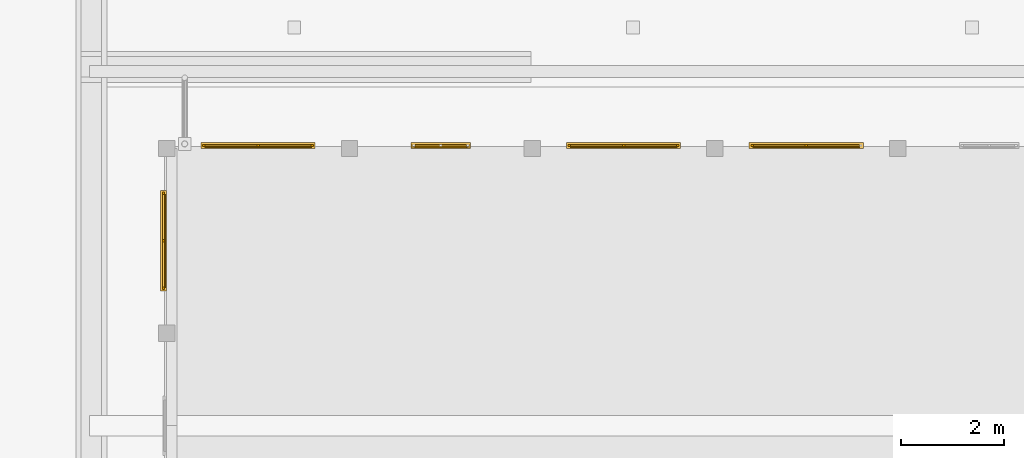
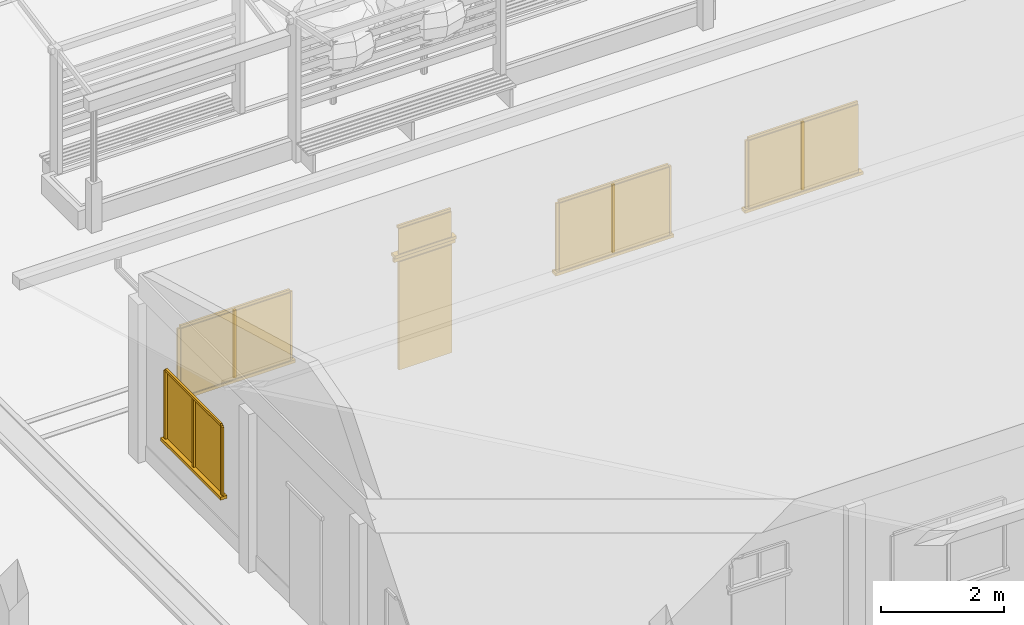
# One storey, part 63 of 177: 26 windows, 2 doors.
"""IFC4 building model written with IfcOpenShell, lengths in metres."""

from ifc_helpers import new_model, si_unit, origin, origin_with_axes, place, context, subcontext, project, spatial, triangles, element, save


model = new_model("IFC4")

# Units and contexts
model_context = context("Model", 3, precision=1e-05, world=origin_with_axes())
body_context = subcontext(model_context, "Body", "Model", "MODEL_VIEW")
ifc_project = project(units=[si_unit("LENGTHUNIT", "METRE"), si_unit("AREAUNIT", "SQUARE_METRE"), si_unit("VOLUMEUNIT", "CUBIC_METRE"), si_unit("PLANEANGLEUNIT", "RADIAN")], contexts=[model_context])

# Site, building, storey
site_placement = place(None, origin_with_axes())
site = spatial("IfcSite", under=ifc_project, at=site_placement, Name="Predio Los Mangos - Morales, San Martín", CompositionType="ELEMENT")
building_placement = place(site_placement, origin())
building = spatial("IfcBuilding", under=site, at=building_placement, Name="Hogar de Refugio Temporal", CompositionType="ELEMENT")
storey_placement = place(building_placement, origin())
storey = spatial("IfcBuildingStorey", under=building, at=storey_placement, Name="NIVEL 1 (NPT +0.00)", CompositionType="ELEMENT", Elevation=0.0)

# Windows
window_1_placement = place(storey_placement, origin())
element("IfcWindow", 1, at=window_1_placement, inside=storey, Name="E-06_v0_vid", ObjectType="Ventana", PredefinedType="WINDOW", context=body_context, shape_type="Tessellation", body=[
    triangles([(32.7476, 103.52, 1.05), (34.8124, 103.52, 1.05), (34.8124, 103.54, 1.05), (32.7476, 103.54, 1.05), (32.7476, 103.52, 2.4), (34.8124, 103.52, 2.4), (34.8124, 103.54, 2.4), (32.7476, 103.54, 2.4)], [[1, 4, 3], [1, 3, 2], [5, 6, 7], [5, 7, 8], [1, 2, 6], [1, 6, 5], [2, 3, 7], [2, 7, 6], [3, 4, 8], [3, 8, 7], [4, 1, 5], [4, 5, 8]]),
])
window_2_placement = place(storey_placement, origin())
element("IfcWindow", 2, at=window_2_placement, inside=storey, Name="E-06_v0_m", ObjectType="Ventana", PredefinedType="WINDOW", context=body_context, shape_type="Tessellation", body=[
    triangles([(32.6976, 103.54, 1.05), (32.7476, 103.54, 1.05), (32.7476, 103.58, 1.05), (32.6976, 103.58, 1.05), (32.6976, 103.54, 2.4), (32.7476, 103.54, 2.4), (32.7476, 103.58, 2.4), (32.6976, 103.58, 2.4)], [[1, 4, 3], [1, 3, 2], [5, 6, 7], [5, 7, 8], [1, 2, 6], [1, 6, 5], [2, 3, 7], [2, 7, 6], [3, 4, 8], [3, 8, 7], [4, 1, 5], [4, 5, 8]]),
])
window_3_placement = place(storey_placement, origin())
element("IfcWindow", 3, at=window_3_placement, inside=storey, Name="E-06_v0_m", ObjectType="Ventana", PredefinedType="WINDOW", context=body_context, shape_type="Tessellation", body=[
    triangles([(34.8124, 103.54, 1.05), (34.8624, 103.54, 1.05), (34.8624, 103.58, 1.05), (34.8124, 103.58, 1.05), (34.8124, 103.54, 2.4), (34.8624, 103.54, 2.4), (34.8624, 103.58, 2.4), (34.8124, 103.58, 2.4)], [[1, 4, 3], [1, 3, 2], [5, 6, 7], [5, 7, 8], [1, 2, 6], [1, 6, 5], [2, 3, 7], [2, 7, 6], [3, 4, 8], [3, 8, 7], [4, 1, 5], [4, 5, 8]]),
])
window_4_placement = place(storey_placement, origin())
element("IfcWindow", 4, at=window_4_placement, inside=storey, Name="E-06_v0_m", ObjectType="Ventana", PredefinedType="WINDOW", context=body_context, shape_type="Tessellation", body=[
    triangles([(32.7476, 103.54, 2.4), (34.8124, 103.54, 2.4), (34.8124, 103.58, 2.4), (32.7476, 103.58, 2.4), (32.7476, 103.54, 2.45), (34.8124, 103.54, 2.45), (34.8124, 103.58, 2.45), (32.7476, 103.58, 2.45)], [[1, 4, 3], [1, 3, 2], [5, 6, 7], [5, 7, 8], [1, 2, 6], [1, 6, 5], [2, 3, 7], [2, 7, 6], [3, 4, 8], [3, 8, 7], [4, 1, 5], [4, 5, 8]]),
])
window_5_placement = place(storey_placement, origin())
element("IfcWindow", 5, at=window_5_placement, inside=storey, Name="E-06_v0_m", ObjectType="Ventana", PredefinedType="WINDOW", context=body_context, shape_type="Tessellation", body=[
    triangles([(33.755, 103.54, 1.05), (33.805, 103.54, 1.05), (33.805, 103.58, 1.05), (33.755, 103.58, 1.05), (33.755, 103.54, 2.4), (33.805, 103.54, 2.4), (33.805, 103.58, 2.4), (33.755, 103.58, 2.4)], [[1, 4, 3], [1, 3, 2], [5, 6, 7], [5, 7, 8], [1, 2, 6], [1, 6, 5], [2, 3, 7], [2, 7, 6], [3, 4, 8], [3, 8, 7], [4, 1, 5], [4, 5, 8]]),
])
window_6_placement = place(storey_placement, origin())
element("IfcWindow", 6, at=window_6_placement, inside=storey, Name="E-06_v0_alf", ObjectType="Ventana", PredefinedType="WINDOW", context=body_context, shape_type="Tessellation", body=[
    triangles([(32.6676, 103.5, 0.99), (34.8924, 103.5, 0.99), (34.8924, 103.62, 0.99), (32.6676, 103.62, 0.99), (32.6676, 103.5, 1.05), (34.8924, 103.5, 1.05), (34.8924, 103.62, 1.05), (32.6676, 103.62, 1.05)], [[1, 4, 3], [1, 3, 2], [5, 6, 7], [5, 7, 8], [1, 2, 6], [1, 6, 5], [2, 3, 7], [2, 7, 6], [3, 4, 8], [3, 8, 7], [4, 1, 5], [4, 5, 8]]),
])

# Doors
door_1_placement = place(storey_placement, origin())
element("IfcDoor", 7, at=door_1_placement, inside=storey, Name="E-06_p1", ObjectType="Puerta", PredefinedType="DOOR", context=body_context, shape_type="Tessellation", body=[
    triangles([(36.84, 103.51, 0.15), (37.84, 103.51, 0.15), (37.84, 103.55, 0.15), (36.84, 103.55, 0.15), (36.84, 103.51, 2.3), (37.84, 103.51, 2.3), (37.84, 103.55, 2.3), (36.84, 103.55, 2.3)], [[1, 4, 3], [1, 3, 2], [5, 6, 7], [5, 7, 8], [1, 2, 6], [1, 6, 5], [2, 3, 7], [2, 7, 6], [3, 4, 8], [3, 8, 7], [4, 1, 5], [4, 5, 8]]),
])
door_2_placement = place(storey_placement, origin())
element("IfcDoor", 8, at=door_2_placement, inside=storey, Name="E-06_p1_marco", ObjectType="Puerta", PredefinedType="DOOR", context=body_context, shape_type="Tessellation", body=[
    triangles([(36.76, 103.53, 2.3), (37.92, 103.53, 2.3), (37.92, 103.57, 2.3), (36.76, 103.57, 2.3), (36.76, 103.53, 2.38), (37.92, 103.53, 2.38), (37.92, 103.57, 2.38), (36.76, 103.57, 2.38)], [[1, 4, 3], [1, 3, 2], [5, 6, 7], [5, 7, 8], [1, 2, 6], [1, 6, 5], [2, 3, 7], [2, 7, 6], [3, 4, 8], [3, 8, 7], [4, 1, 5], [4, 5, 8]]),
])

# Windows
window_7_placement = place(storey_placement, origin())
element("IfcWindow", 9, at=window_7_placement, inside=storey, Name="E-06_vt1_vid", ObjectType="Ventana", PredefinedType="WINDOW", context=body_context, shape_type="Tessellation", body=[
    triangles([(36.84, 103.52, 2.45), (37.84, 103.52, 2.45), (37.84, 103.54, 2.45), (36.84, 103.54, 2.45), (36.84, 103.52, 2.95), (37.84, 103.52, 2.95), (37.84, 103.54, 2.95), (36.84, 103.54, 2.95)], [[1, 4, 3], [1, 3, 2], [5, 6, 7], [5, 7, 8], [1, 2, 6], [1, 6, 5], [2, 3, 7], [2, 7, 6], [3, 4, 8], [3, 8, 7], [4, 1, 5], [4, 5, 8]]),
])
window_8_placement = place(storey_placement, origin())
element("IfcWindow", 10, at=window_8_placement, inside=storey, Name="E-06_vt1_m", ObjectType="Ventana", PredefinedType="WINDOW", context=body_context, shape_type="Tessellation", body=[
    triangles([(36.84, 103.54, 2.95), (37.84, 103.54, 2.95), (37.84, 103.58, 2.95), (36.84, 103.58, 2.95), (36.84, 103.54, 3.0), (37.84, 103.54, 3.0), (37.84, 103.58, 3.0), (36.84, 103.58, 3.0)], [[1, 4, 3], [1, 3, 2], [5, 6, 7], [5, 7, 8], [1, 2, 6], [1, 6, 5], [2, 3, 7], [2, 7, 6], [3, 4, 8], [3, 8, 7], [4, 1, 5], [4, 5, 8]]),
])
window_9_placement = place(storey_placement, origin())
element("IfcWindow", 11, at=window_9_placement, inside=storey, Name="E-06_vt1_alf", ObjectType="Ventana", PredefinedType="WINDOW", context=body_context, shape_type="Tessellation", body=[
    triangles([(36.76, 103.5, 2.39), (37.92, 103.5, 2.39), (37.92, 103.62, 2.39), (36.76, 103.62, 2.39), (36.76, 103.5, 2.45), (37.92, 103.5, 2.45), (37.92, 103.62, 2.45), (36.76, 103.62, 2.45)], [[1, 4, 3], [1, 3, 2], [5, 6, 7], [5, 7, 8], [1, 2, 6], [1, 6, 5], [2, 3, 7], [2, 7, 6], [3, 4, 8], [3, 8, 7], [4, 1, 5], [4, 5, 8]]),
])
window_10_placement = place(storey_placement, origin())
element("IfcWindow", 12, at=window_10_placement, inside=storey, Name="E-06_v2_vid", ObjectType="Ventana", PredefinedType="WINDOW", context=body_context, shape_type="Tessellation", body=[
    triangles([(39.8676, 103.52, 1.05), (41.9324, 103.52, 1.05), (41.9324, 103.54, 1.05), (39.8676, 103.54, 1.05), (39.8676, 103.52, 2.4), (41.9324, 103.52, 2.4), (41.9324, 103.54, 2.4), (39.8676, 103.54, 2.4)], [[1, 4, 3], [1, 3, 2], [5, 6, 7], [5, 7, 8], [1, 2, 6], [1, 6, 5], [2, 3, 7], [2, 7, 6], [3, 4, 8], [3, 8, 7], [4, 1, 5], [4, 5, 8]]),
])
window_11_placement = place(storey_placement, origin())
element("IfcWindow", 13, at=window_11_placement, inside=storey, Name="E-06_v2_m", ObjectType="Ventana", PredefinedType="WINDOW", context=body_context, shape_type="Tessellation", body=[
    triangles([(39.8176, 103.54, 1.05), (39.8676, 103.54, 1.05), (39.8676, 103.58, 1.05), (39.8176, 103.58, 1.05), (39.8176, 103.54, 2.4), (39.8676, 103.54, 2.4), (39.8676, 103.58, 2.4), (39.8176, 103.58, 2.4)], [[1, 4, 3], [1, 3, 2], [5, 6, 7], [5, 7, 8], [1, 2, 6], [1, 6, 5], [2, 3, 7], [2, 7, 6], [3, 4, 8], [3, 8, 7], [4, 1, 5], [4, 5, 8]]),
])
window_12_placement = place(storey_placement, origin())
element("IfcWindow", 14, at=window_12_placement, inside=storey, Name="E-06_v2_m", ObjectType="Ventana", PredefinedType="WINDOW", context=body_context, shape_type="Tessellation", body=[
    triangles([(41.9324, 103.54, 1.05), (41.9824, 103.54, 1.05), (41.9824, 103.58, 1.05), (41.9324, 103.58, 1.05), (41.9324, 103.54, 2.4), (41.9824, 103.54, 2.4), (41.9824, 103.58, 2.4), (41.9324, 103.58, 2.4)], [[1, 4, 3], [1, 3, 2], [5, 6, 7], [5, 7, 8], [1, 2, 6], [1, 6, 5], [2, 3, 7], [2, 7, 6], [3, 4, 8], [3, 8, 7], [4, 1, 5], [4, 5, 8]]),
])
window_13_placement = place(storey_placement, origin())
element("IfcWindow", 15, at=window_13_placement, inside=storey, Name="E-06_v2_m", ObjectType="Ventana", PredefinedType="WINDOW", context=body_context, shape_type="Tessellation", body=[
    triangles([(39.8676, 103.54, 2.4), (41.9324, 103.54, 2.4), (41.9324, 103.58, 2.4), (39.8676, 103.58, 2.4), (39.8676, 103.54, 2.45), (41.9324, 103.54, 2.45), (41.9324, 103.58, 2.45), (39.8676, 103.58, 2.45)], [[1, 4, 3], [1, 3, 2], [5, 6, 7], [5, 7, 8], [1, 2, 6], [1, 6, 5], [2, 3, 7], [2, 7, 6], [3, 4, 8], [3, 8, 7], [4, 1, 5], [4, 5, 8]]),
])
window_14_placement = place(storey_placement, origin())
element("IfcWindow", 16, at=window_14_placement, inside=storey, Name="E-06_v2_m", ObjectType="Ventana", PredefinedType="WINDOW", context=body_context, shape_type="Tessellation", body=[
    triangles([(40.875, 103.54, 1.05), (40.925, 103.54, 1.05), (40.925, 103.58, 1.05), (40.875, 103.58, 1.05), (40.875, 103.54, 2.4), (40.925, 103.54, 2.4), (40.925, 103.58, 2.4), (40.875, 103.58, 2.4)], [[1, 4, 3], [1, 3, 2], [5, 6, 7], [5, 7, 8], [1, 2, 6], [1, 6, 5], [2, 3, 7], [2, 7, 6], [3, 4, 8], [3, 8, 7], [4, 1, 5], [4, 5, 8]]),
])
window_15_placement = place(storey_placement, origin())
element("IfcWindow", 17, at=window_15_placement, inside=storey, Name="E-06_v2_alf", ObjectType="Ventana", PredefinedType="WINDOW", context=body_context, shape_type="Tessellation", body=[
    triangles([(39.7876, 103.5, 0.99), (42.0124, 103.5, 0.99), (42.0124, 103.62, 0.99), (39.7876, 103.62, 0.99), (39.7876, 103.5, 1.05), (42.0124, 103.5, 1.05), (42.0124, 103.62, 1.05), (39.7876, 103.62, 1.05)], [[1, 4, 3], [1, 3, 2], [5, 6, 7], [5, 7, 8], [1, 2, 6], [1, 6, 5], [2, 3, 7], [2, 7, 6], [3, 4, 8], [3, 8, 7], [4, 1, 5], [4, 5, 8]]),
])
window_16_placement = place(storey_placement, origin())
element("IfcWindow", 18, at=window_16_placement, inside=storey, Name="E-06_v3_vid", ObjectType="Ventana", PredefinedType="WINDOW", context=body_context, shape_type="Tessellation", body=[
    triangles([(43.4276, 103.52, 1.05), (45.4924, 103.52, 1.05), (45.4924, 103.54, 1.05), (43.4276, 103.54, 1.05), (43.4276, 103.52, 2.4), (45.4924, 103.52, 2.4), (45.4924, 103.54, 2.4), (43.4276, 103.54, 2.4)], [[1, 4, 3], [1, 3, 2], [5, 6, 7], [5, 7, 8], [1, 2, 6], [1, 6, 5], [2, 3, 7], [2, 7, 6], [3, 4, 8], [3, 8, 7], [4, 1, 5], [4, 5, 8]]),
])
window_17_placement = place(storey_placement, origin())
element("IfcWindow", 19, at=window_17_placement, inside=storey, Name="E-06_v3_m", ObjectType="Ventana", PredefinedType="WINDOW", context=body_context, shape_type="Tessellation", body=[
    triangles([(43.3776, 103.54, 1.05), (43.4276, 103.54, 1.05), (43.4276, 103.58, 1.05), (43.3776, 103.58, 1.05), (43.3776, 103.54, 2.4), (43.4276, 103.54, 2.4), (43.4276, 103.58, 2.4), (43.3776, 103.58, 2.4)], [[1, 4, 3], [1, 3, 2], [5, 6, 7], [5, 7, 8], [1, 2, 6], [1, 6, 5], [2, 3, 7], [2, 7, 6], [3, 4, 8], [3, 8, 7], [4, 1, 5], [4, 5, 8]]),
])
window_18_placement = place(storey_placement, origin())
element("IfcWindow", 20, at=window_18_placement, inside=storey, Name="E-06_v3_m", ObjectType="Ventana", PredefinedType="WINDOW", context=body_context, shape_type="Tessellation", body=[
    triangles([(43.4276, 103.54, 2.4), (45.4924, 103.54, 2.4), (45.4924, 103.58, 2.4), (43.4276, 103.58, 2.4), (43.4276, 103.54, 2.45), (45.4924, 103.54, 2.45), (45.4924, 103.58, 2.45), (43.4276, 103.58, 2.45)], [[1, 4, 3], [1, 3, 2], [5, 6, 7], [5, 7, 8], [1, 2, 6], [1, 6, 5], [2, 3, 7], [2, 7, 6], [3, 4, 8], [3, 8, 7], [4, 1, 5], [4, 5, 8]]),
])
window_19_placement = place(storey_placement, origin())
element("IfcWindow", 21, at=window_19_placement, inside=storey, Name="E-06_v3_m", ObjectType="Ventana", PredefinedType="WINDOW", context=body_context, shape_type="Tessellation", body=[
    triangles([(44.435, 103.54, 1.05), (44.485, 103.54, 1.05), (44.485, 103.58, 1.05), (44.435, 103.58, 1.05), (44.435, 103.54, 2.4), (44.485, 103.54, 2.4), (44.485, 103.58, 2.4), (44.435, 103.58, 2.4)], [[1, 4, 3], [1, 3, 2], [5, 6, 7], [5, 7, 8], [1, 2, 6], [1, 6, 5], [2, 3, 7], [2, 7, 6], [3, 4, 8], [3, 8, 7], [4, 1, 5], [4, 5, 8]]),
])
window_20_placement = place(storey_placement, origin())
element("IfcWindow", 22, at=window_20_placement, inside=storey, Name="E-06_v3_alf", ObjectType="Ventana", PredefinedType="WINDOW", context=body_context, shape_type="Tessellation", body=[
    triangles([(43.3476, 103.5, 0.99), (45.5724, 103.5, 0.99), (45.5724, 103.62, 0.99), (43.3476, 103.62, 0.99), (43.3476, 103.5, 1.05), (45.5724, 103.5, 1.05), (45.5724, 103.62, 1.05), (43.3476, 103.62, 1.05)], [[1, 4, 3], [1, 3, 2], [5, 6, 7], [5, 7, 8], [1, 2, 6], [1, 6, 5], [2, 3, 7], [2, 7, 6], [3, 4, 8], [3, 8, 7], [4, 1, 5], [4, 5, 8]]),
])
window_21_placement = place(storey_placement, origin())
element("IfcWindow", 23, at=window_21_placement, inside=storey, Name="E-06_vg2_vid", ObjectType="Ventana", PredefinedType="WINDOW", context=body_context, shape_type="Tessellation", body=[
    triangles([(31.96, 100.8, 1.05), (31.98, 100.8, 1.05), (31.98, 102.6, 1.05), (31.96, 102.6, 1.05), (31.96, 100.8, 2.4), (31.98, 100.8, 2.4), (31.98, 102.6, 2.4), (31.96, 102.6, 2.4)], [[1, 4, 3], [1, 3, 2], [5, 6, 7], [5, 7, 8], [1, 2, 6], [1, 6, 5], [2, 3, 7], [2, 7, 6], [3, 4, 8], [3, 8, 7], [4, 1, 5], [4, 5, 8]]),
])
window_22_placement = place(storey_placement, origin())
element("IfcWindow", 24, at=window_22_placement, inside=storey, Name="E-06_vg2_m", ObjectType="Ventana", PredefinedType="WINDOW", context=body_context, shape_type="Tessellation", body=[
    triangles([(31.92, 100.75, 1.05), (31.96, 100.75, 1.05), (31.96, 100.8, 1.05), (31.92, 100.8, 1.05), (31.92, 100.75, 2.4), (31.96, 100.75, 2.4), (31.96, 100.8, 2.4), (31.92, 100.8, 2.4)], [[1, 4, 3], [1, 3, 2], [5, 6, 7], [5, 7, 8], [1, 2, 6], [1, 6, 5], [2, 3, 7], [2, 7, 6], [3, 4, 8], [3, 8, 7], [4, 1, 5], [4, 5, 8]]),
])
window_23_placement = place(storey_placement, origin())
element("IfcWindow", 25, at=window_23_placement, inside=storey, Name="E-06_vg2_m", ObjectType="Ventana", PredefinedType="WINDOW", context=body_context, shape_type="Tessellation", body=[
    triangles([(31.92, 102.6, 1.05), (31.96, 102.6, 1.05), (31.96, 102.65, 1.05), (31.92, 102.65, 1.05), (31.92, 102.6, 2.4), (31.96, 102.6, 2.4), (31.96, 102.65, 2.4), (31.92, 102.65, 2.4)], [[1, 4, 3], [1, 3, 2], [5, 6, 7], [5, 7, 8], [1, 2, 6], [1, 6, 5], [2, 3, 7], [2, 7, 6], [3, 4, 8], [3, 8, 7], [4, 1, 5], [4, 5, 8]]),
])
window_24_placement = place(storey_placement, origin())
element("IfcWindow", 26, at=window_24_placement, inside=storey, Name="E-06_vg2_m", ObjectType="Ventana", PredefinedType="WINDOW", context=body_context, shape_type="Tessellation", body=[
    triangles([(31.92, 100.8, 2.4), (31.96, 100.8, 2.4), (31.96, 102.6, 2.4), (31.92, 102.6, 2.4), (31.92, 100.8, 2.45), (31.96, 100.8, 2.45), (31.96, 102.6, 2.45), (31.92, 102.6, 2.45)], [[1, 4, 3], [1, 3, 2], [5, 6, 7], [5, 7, 8], [1, 2, 6], [1, 6, 5], [2, 3, 7], [2, 7, 6], [3, 4, 8], [3, 8, 7], [4, 1, 5], [4, 5, 8]]),
])
window_25_placement = place(storey_placement, origin())
element("IfcWindow", 27, at=window_25_placement, inside=storey, Name="E-06_vg2_m", ObjectType="Ventana", PredefinedType="WINDOW", context=body_context, shape_type="Tessellation", body=[
    triangles([(31.92, 101.675, 1.05), (31.96, 101.675, 1.05), (31.96, 101.725, 1.05), (31.92, 101.725, 1.05), (31.92, 101.675, 2.4), (31.96, 101.675, 2.4), (31.96, 101.725, 2.4), (31.92, 101.725, 2.4)], [[1, 4, 3], [1, 3, 2], [5, 6, 7], [5, 7, 8], [1, 2, 6], [1, 6, 5], [2, 3, 7], [2, 7, 6], [3, 4, 8], [3, 8, 7], [4, 1, 5], [4, 5, 8]]),
])
window_26_placement = place(storey_placement, origin())
element("IfcWindow", 28, at=window_26_placement, inside=storey, Name="E-06_vg2_alf", ObjectType="Ventana", PredefinedType="WINDOW", context=body_context, shape_type="Tessellation", body=[
    triangles([(32.0, 100.72, 0.99), (31.88, 100.72, 0.99), (31.88, 102.68, 0.99), (32.0, 102.68, 0.99), (32.0, 100.72, 1.05), (31.88, 100.72, 1.05), (31.88, 102.68, 1.05), (32.0, 102.68, 1.05)], [[1, 4, 3], [1, 3, 2], [5, 6, 7], [5, 7, 8], [1, 2, 6], [1, 6, 5], [2, 3, 7], [2, 7, 6], [3, 4, 8], [3, 8, 7], [4, 1, 5], [4, 5, 8]]),
])

save(model, "model.ifc")
